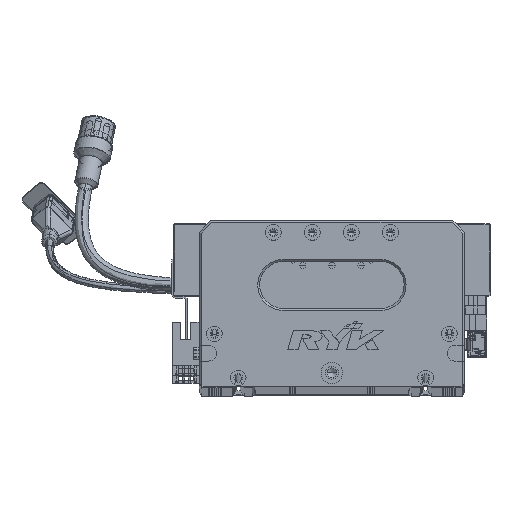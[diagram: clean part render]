
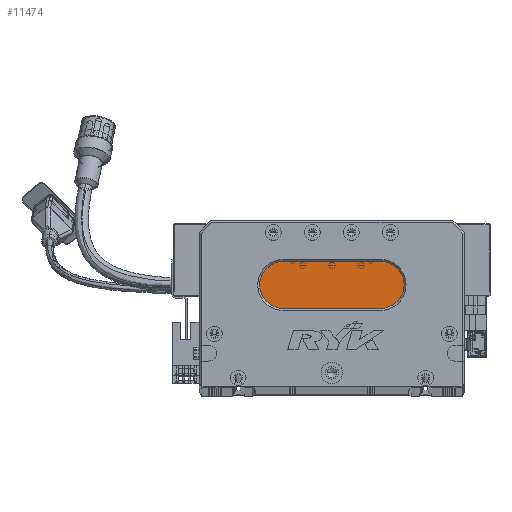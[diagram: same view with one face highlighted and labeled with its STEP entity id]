
A CAD part, top view. The second image highlights one B-rep face of the part: STEP entity #11474.
In plain terms, the highlighted planar face has unit normal (0, 0, 1) as drawn and (0, 0, -1) by its records, which use the part's own axes.
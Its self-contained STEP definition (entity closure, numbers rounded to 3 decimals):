
#3422 = VERTEX_POINT ( 'NONE', #117458 ) ;
#4649 = VERTEX_POINT ( 'NONE', #32050 ) ;
#5458 = CARTESIAN_POINT ( 'NONE',  ( 93., 40., 13. ) ) ;
#7639 = DIRECTION ( 'NONE',  ( -1., 0., 0. ) ) ;
#11474 = ADVANCED_FACE ( 'NONE', ( #18416 ), #92657, .T. ) ;
#12416 = DIRECTION ( 'NONE',  ( -1., 0., 0. ) ) ;
#14017 = CARTESIAN_POINT ( 'NONE',  ( 93., 52., 13. ) ) ;
#18416 = FACE_OUTER_BOUND ( 'NONE', #89227, .T. ) ;
#18552 = LINE ( 'NONE', #80758, #119133 ) ;
#18873 = CARTESIAN_POINT ( 'NONE',  ( 43., 52., 13. ) ) ;
#20020 = CARTESIAN_POINT ( 'NONE',  ( 93., 64., 13. ) ) ;
#21213 = ORIENTED_EDGE ( 'NONE', *, *, #75875, .T. ) ;
#21945 = CIRCLE ( 'NONE', #58456, 12. ) ;
#22557 = ORIENTED_EDGE ( 'NONE', *, *, #30173, .T. ) ;
#23291 = CARTESIAN_POINT ( 'NONE',  ( 93., 52., 13. ) ) ;
#29649 = ORIENTED_EDGE ( 'NONE', *, *, #74070, .T. ) ;
#29807 = ORIENTED_EDGE ( 'NONE', *, *, #42359, .T. ) ;
#30129 = VERTEX_POINT ( 'NONE', #45336 ) ;
#30173 = EDGE_CURVE ( 'NONE', #30129, #102723, #21945, .T. ) ;
#30351 = AXIS2_PLACEMENT_3D ( 'NONE', #23291, #52674, #51427 ) ;
#32050 = CARTESIAN_POINT ( 'NONE',  ( 43., 64., 13. ) ) ;
#32381 = AXIS2_PLACEMENT_3D ( 'NONE', #46758, #105917, #96796 ) ;
#42359 = EDGE_CURVE ( 'NONE', #102723, #4649, #86880, .T. ) ;
#45336 = CARTESIAN_POINT ( 'NONE',  ( 43., 40., 13. ) ) ;
#46758 = CARTESIAN_POINT ( 'NONE',  ( 43., 52., 13. ) ) ;
#46891 = CIRCLE ( 'NONE', #30351, 12. ) ;
#51427 = DIRECTION ( 'NONE',  ( -1., 0., 0. ) ) ;
#52674 = DIRECTION ( 'NONE',  ( 0., 0., -1. ) ) ;
#54008 = VERTEX_POINT ( 'NONE', #5458 ) ;
#58456 = AXIS2_PLACEMENT_3D ( 'NONE', #18873, #97489, #7639 ) ;
#74070 = EDGE_CURVE ( 'NONE', #3422, #54008, #46891, .T. ) ;
#75875 = EDGE_CURVE ( 'NONE', #54008, #30129, #18552, .T. ) ;
#80201 = ORIENTED_EDGE ( 'NONE', *, *, #111110, .T. ) ;
#80758 = CARTESIAN_POINT ( 'NONE',  ( 93., 40., 13. ) ) ;
#86880 = CIRCLE ( 'NONE', #32381, 12. ) ;
#88293 = DIRECTION ( 'NONE',  ( 1., 0., 0. ) ) ;
#89227 = EDGE_LOOP ( 'NONE', ( #29649, #21213, #22557, #29807, #80201 ) ) ;
#92657 = PLANE ( 'NONE',  #124395 ) ;
#93512 = DIRECTION ( 'NONE',  ( -1., 0., 0. ) ) ;
#96796 = DIRECTION ( 'NONE',  ( -1., 0., 0. ) ) ;
#97489 = DIRECTION ( 'NONE',  ( 0., 0., -1. ) ) ;
#102723 = VERTEX_POINT ( 'NONE', #107282 ) ;
#105344 = VECTOR ( 'NONE', #88293, 1000. ) ;
#105917 = DIRECTION ( 'NONE',  ( 0., 0., -1. ) ) ;
#107282 = CARTESIAN_POINT ( 'NONE',  ( 31., 52., 13. ) ) ;
#111110 = EDGE_CURVE ( 'NONE', #4649, #3422, #127077, .T. ) ;
#117458 = CARTESIAN_POINT ( 'NONE',  ( 93., 64., 13. ) ) ;
#119133 = VECTOR ( 'NONE', #12416, 1000. ) ;
#122943 = DIRECTION ( 'NONE',  ( 0., 0., -1. ) ) ;
#124395 = AXIS2_PLACEMENT_3D ( 'NONE', #14017, #122943, #93512 ) ;
#127077 = LINE ( 'NONE', #20020, #105344 ) ;
